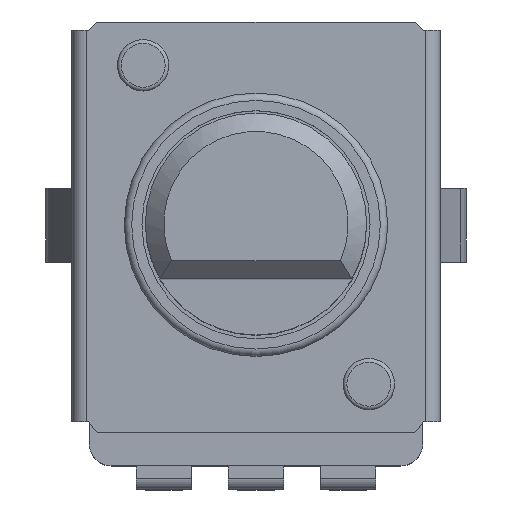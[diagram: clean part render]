
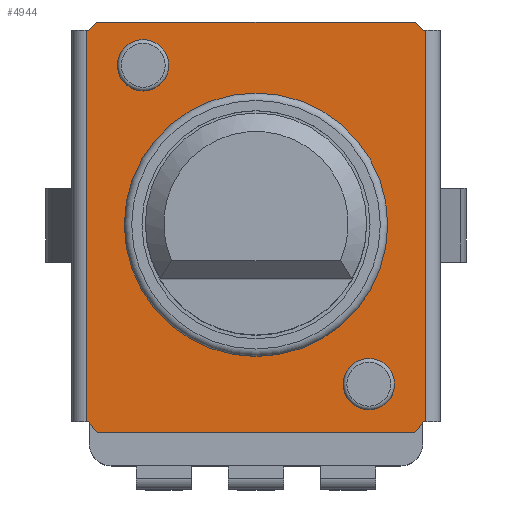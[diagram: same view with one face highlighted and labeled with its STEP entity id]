
A CAD part, top view. The second image highlights one B-rep face of the part: STEP entity #4944.
In plain terms, the highlighted planar face has unit normal (0, 0, 1).
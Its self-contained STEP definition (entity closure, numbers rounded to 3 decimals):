
#122=CIRCLE('',#5179,0.696);
#123=CIRCLE('',#5180,0.696);
#124=CIRCLE('',#5181,3.571);
#587=ORIENTED_EDGE('',*,*,#1481,.F.);
#588=ORIENTED_EDGE('',*,*,#1482,.F.);
#589=ORIENTED_EDGE('',*,*,#1483,.F.);
#590=ORIENTED_EDGE('',*,*,#1315,.T.);
#591=ORIENTED_EDGE('',*,*,#1484,.T.);
#592=ORIENTED_EDGE('',*,*,#1334,.T.);
#593=ORIENTED_EDGE('',*,*,#1340,.T.);
#594=ORIENTED_EDGE('',*,*,#1326,.T.);
#595=ORIENTED_EDGE('',*,*,#1329,.T.);
#596=ORIENTED_EDGE('',*,*,#1332,.T.);
#597=ORIENTED_EDGE('',*,*,#1485,.T.);
#598=ORIENTED_EDGE('',*,*,#1303,.T.);
#599=ORIENTED_EDGE('',*,*,#1309,.T.);
#600=ORIENTED_EDGE('',*,*,#1296,.T.);
#601=ORIENTED_EDGE('',*,*,#1312,.T.);
#1296=EDGE_CURVE('',#1817,#1819,#2171,.T.);
#1303=EDGE_CURVE('',#1824,#1825,#2178,.T.);
#1309=EDGE_CURVE('',#1825,#1817,#2183,.T.);
#1312=EDGE_CURVE('',#1819,#1830,#2186,.T.);
#1315=EDGE_CURVE('',#1830,#1833,#2188,.T.);
#1326=EDGE_CURVE('',#1839,#1841,#2199,.T.);
#1329=EDGE_CURVE('',#1841,#1843,#2202,.T.);
#1332=EDGE_CURVE('',#1843,#1846,#2204,.T.);
#1334=EDGE_CURVE('',#1847,#1848,#2206,.T.);
#1340=EDGE_CURVE('',#1848,#1839,#2211,.T.);
#1481=EDGE_CURVE('',#1936,#1936,#122,.T.);
#1482=EDGE_CURVE('',#1937,#1937,#123,.T.);
#1483=EDGE_CURVE('',#1938,#1938,#124,.T.);
#1484=EDGE_CURVE('',#1833,#1847,#2326,.T.);
#1485=EDGE_CURVE('',#1846,#1824,#2327,.T.);
#1817=VERTEX_POINT('',#6515);
#1819=VERTEX_POINT('',#6519);
#1824=VERTEX_POINT('',#6535);
#1825=VERTEX_POINT('',#6536);
#1830=VERTEX_POINT('',#6551);
#1833=VERTEX_POINT('',#6558);
#1839=VERTEX_POINT('',#6576);
#1841=VERTEX_POINT('',#6580);
#1843=VERTEX_POINT('',#6586);
#1846=VERTEX_POINT('',#6593);
#1847=VERTEX_POINT('',#6598);
#1848=VERTEX_POINT('',#6599);
#1936=VERTEX_POINT('',#6877);
#1937=VERTEX_POINT('',#6879);
#1938=VERTEX_POINT('',#6881);
#2171=LINE('',#6520,#2589);
#2178=LINE('',#6534,#2596);
#2183=LINE('',#6546,#2601);
#2186=LINE('',#6552,#2604);
#2188=LINE('',#6559,#2606);
#2199=LINE('',#6581,#2617);
#2202=LINE('',#6587,#2620);
#2204=LINE('',#6594,#2622);
#2206=LINE('',#6597,#2624);
#2211=LINE('',#6609,#2629);
#2326=LINE('',#6882,#2744);
#2327=LINE('',#6883,#2745);
#2589=VECTOR('',#5464,1000.);
#2596=VECTOR('',#5477,1000.);
#2601=VECTOR('',#5486,1000.);
#2604=VECTOR('',#5491,1000.);
#2606=VECTOR('',#5497,1000.);
#2617=VECTOR('',#5514,1000.);
#2620=VECTOR('',#5519,1000.);
#2622=VECTOR('',#5525,1000.);
#2624=VECTOR('',#5529,1000.);
#2629=VECTOR('',#5538,1000.);
#2744=VECTOR('',#5795,1000.);
#2745=VECTOR('',#5796,1000.);
#3005=EDGE_LOOP('',(#587));
#3006=EDGE_LOOP('',(#588));
#3007=EDGE_LOOP('',(#589));
#3008=EDGE_LOOP('',(#590,#591,#592,#593,#594,#595,#596,#597,#598,#599,#600,
#601));
#3226=FACE_BOUND('',#3005,.T.);
#3227=FACE_BOUND('',#3006,.T.);
#3228=FACE_BOUND('',#3007,.T.);
#3229=FACE_BOUND('',#3008,.T.);
#3443=PLANE('',#5178);
#4944=ADVANCED_FACE('',(#3226,#3227,#3228,#3229),#3443,.T.);
#5178=AXIS2_PLACEMENT_3D('',#6875,#5787,#5788);
#5179=AXIS2_PLACEMENT_3D('',#6876,#5789,#5790);
#5180=AXIS2_PLACEMENT_3D('',#6878,#5791,#5792);
#5181=AXIS2_PLACEMENT_3D('',#6880,#5793,#5794);
#5464=DIRECTION('',(1.,0.,0.));
#5477=DIRECTION('',(1.,0.,0.));
#5486=DIRECTION('',(0.653,-0.757,0.));
#5491=DIRECTION('',(0.653,0.757,0.));
#5497=DIRECTION('',(1.,0.,0.));
#5514=DIRECTION('',(-1.,0.,0.));
#5519=DIRECTION('',(-0.697,-0.717,0.));
#5525=DIRECTION('',(-1.,0.,0.));
#5529=DIRECTION('',(-1.,0.,0.));
#5538=DIRECTION('',(-0.697,0.717,0.));
#5787=DIRECTION('',(0.,0.,1.));
#5788=DIRECTION('',(1.,0.,0.));
#5789=DIRECTION('',(0.,0.,1.));
#5790=DIRECTION('',(1.,0.,0.));
#5791=DIRECTION('',(0.,0.,1.));
#5792=DIRECTION('',(1.,0.,0.));
#5793=DIRECTION('',(0.,0.,1.));
#5794=DIRECTION('',(1.,0.,0.));
#5795=DIRECTION('',(0.,1.,0.));
#5796=DIRECTION('',(0.,-1.,0.));
#6515=CARTESIAN_POINT('',(-4.299,-5.631,0.));
#6519=CARTESIAN_POINT('',(4.299,-5.631,0.));
#6520=CARTESIAN_POINT('',(4.299,-5.631,0.));
#6534=CARTESIAN_POINT('',(-5.,-5.345,0.));
#6535=CARTESIAN_POINT('',(-4.6,-5.345,0.));
#6536=CARTESIAN_POINT('',(-4.545,-5.345,0.));
#6546=CARTESIAN_POINT('',(-4.545,-5.345,0.));
#6551=CARTESIAN_POINT('',(4.545,-5.345,0.));
#6552=CARTESIAN_POINT('',(4.545,-5.345,0.));
#6558=CARTESIAN_POINT('',(4.6,-5.345,0.));
#6559=CARTESIAN_POINT('',(5.,-5.345,0.));
#6576=CARTESIAN_POINT('',(4.315,5.5,0.));
#6580=CARTESIAN_POINT('',(-4.315,5.5,0.));
#6581=CARTESIAN_POINT('',(-4.315,5.5,0.));
#6586=CARTESIAN_POINT('',(-4.533,5.276,0.));
#6587=CARTESIAN_POINT('',(-4.315,5.5,0.));
#6593=CARTESIAN_POINT('',(-4.6,5.276,0.));
#6594=CARTESIAN_POINT('',(-4.533,5.276,0.));
#6597=CARTESIAN_POINT('',(4.533,5.276,0.));
#6598=CARTESIAN_POINT('',(4.6,5.276,0.));
#6599=CARTESIAN_POINT('',(4.533,5.276,0.));
#6609=CARTESIAN_POINT('',(4.315,5.5,0.));
#6875=CARTESIAN_POINT('',(0.,0.,0.));
#6876=CARTESIAN_POINT('',(3.06,-4.323,0.));
#6877=CARTESIAN_POINT('',(3.756,-4.323,0.));
#6878=CARTESIAN_POINT('',(-3.06,4.323,0.));
#6879=CARTESIAN_POINT('',(-2.364,4.323,0.));
#6880=CARTESIAN_POINT('',(0.,0.,0.));
#6881=CARTESIAN_POINT('',(3.571,0.,0.));
#6882=CARTESIAN_POINT('',(4.6,0.,0.));
#6883=CARTESIAN_POINT('',(-4.6,0.,0.));
